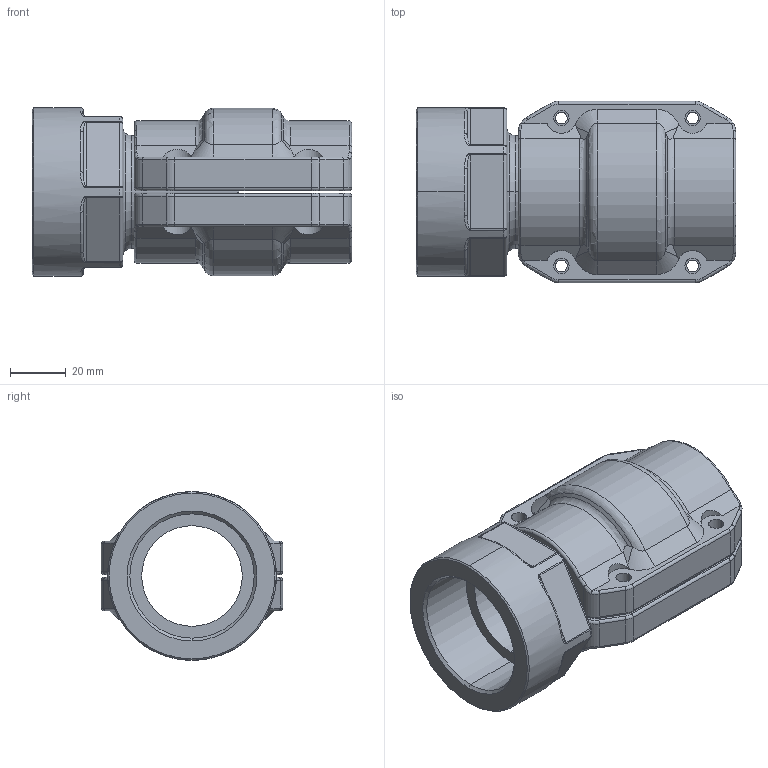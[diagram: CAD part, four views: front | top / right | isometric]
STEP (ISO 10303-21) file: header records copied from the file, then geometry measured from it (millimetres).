
FILE_DESCRIPTION((''),'2;1');
FILE_NAME('AU15441999_ASM_3_ASM','2017-05-16T',('Administrator'),(''),'PRO/ENGINEER BY PARAMETRIC TECHNOLOGY CORPORATION, 2009360','PRO/ENGINEER BY PARAMETRIC TECHNOLOGY CORPORATION, 2009360','');
FILE_SCHEMA(('AUTOMOTIVE_DESIGN_CC2 { 1 2 10303 214 -1 1 5 2 }'));
Length unit declared in the file: millimetre
Products named in the file (5): AU15441900_1; 201540020001_1; 201540020000_1; 2015400200_ASM_1_ASM; AU15441999_ASM_3_ASM
Assembly tree (4 placements, depth 3):
  AU15441999_ASM_3_ASM
    AU15441900_1
    2015400200_ASM_1_ASM
      201540020001_1
      201540020000_1
Bounding box: 114.55 x 65 x 60.45 mm (x, y, z)
Volume: 152741.9 mm3; surface area: 54424.4 mm2
Topology: 3 solids, 3 shells, 308 faces, 784 edges, 464 vertices
Faces by surface type: cylinder 124, torus 68, plane 52, bspline 36, sphere 20, cone 8
Entity records: 14449 total; most frequent: CARTESIAN_POINT 4773, DIRECTION 1570, ORIENTED_EDGE 1528, PRESENTATION_STYLE_ASSIGNMENT 767, STYLED_ITEM 767, CURVE_STYLE 764, EDGE_CURVE 764, AXIS2_PLACEMENT_3D 667
